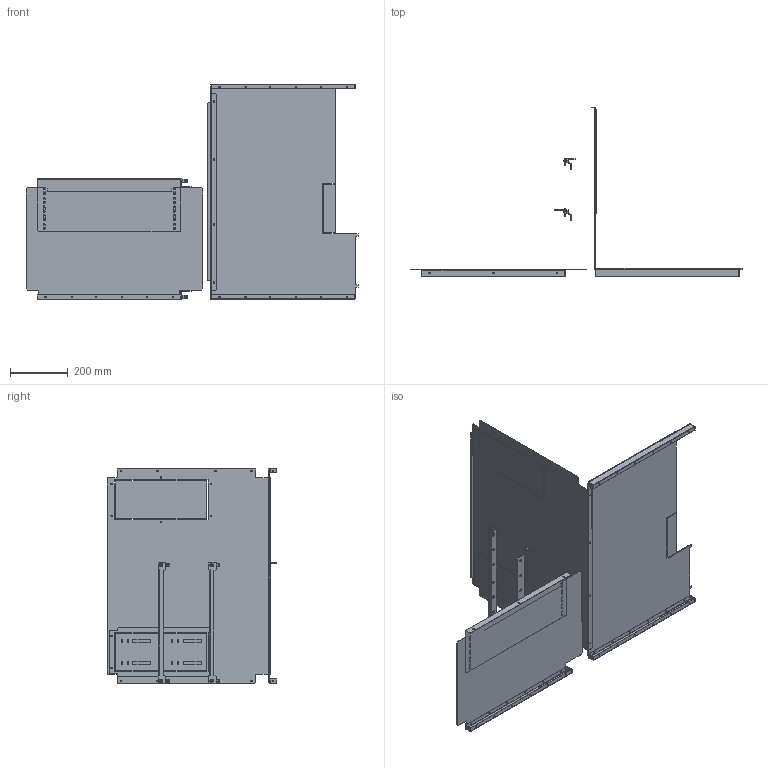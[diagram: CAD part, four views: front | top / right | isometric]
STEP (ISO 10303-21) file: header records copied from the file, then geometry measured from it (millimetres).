
FILE_DESCRIPTION(('CAx-IF Rec.Pracs.---Model Styling and Organization---1.2---2011-12-15','CAx-IF Rec.Pracs.---Geometric and Assembly Validation Properties---4.1---2014-06-16','CAx-IF Rec.Pracs.---PMI Polyline Presentation---2.0---2013-05-24'),'2;1');
FILE_NAME('R5FCMS66680 (NW08-25W).stp','2021-05-06T02:42:53+03:00',(''),(''),'STEP Interface 4.4 by CT CoreTechnologie','3D_Evolution4.4 by CT CoreTechnologie','');
FILE_SCHEMA(('AUTOMOTIVE_DESIGN { 1 0 10303 214 1 1 1 1 }'));
Length unit declared in the file: millimetre
Products named in the file (10): R5FCMS66680 (NW08-25W); RB.0776.00.00.1_-00; RB.0779.00.00.1_-03; RB.0778.00.00.1_-00; M6x16-DIN 7985 ISR_thread; RB.1168.00.00.0_-01; AC00C485; RB.0780.00.00.1_-01; RB.0697.00.00.1_-01; RB.0777.00.00.1_-03
Assembly tree (18 placements, depth 2):
  R5FCMS66680 (NW08-25W)
    RB.0776.00.00.1_-00
    RB.0779.00.00.1_-03
    RB.0778.00.00.1_-00
    M6x16-DIN 7985 ISR_thread  x4
    RB.1168.00.00.0_-01
    AC00C485  x4
    RB.0780.00.00.1_-01  x2
    RB.0697.00.00.1_-01  x3
    RB.0777.00.00.1_-03
Bounding box: 1145.9 x 585.5 x 744 mm (x, y, z)
Surface area: 2559708 mm2 (no closed solid volume)
Topology: 0 solids, 28 shells, 1062 faces, 2814 edges, 1796 vertices
Faces by surface type: plane 546, cylinder 448, bspline 68
Entity records: 21242 total; most frequent: CARTESIAN_POINT 4036, DIRECTION 3411, ORIENTED_EDGE 3408, EDGE_CURVE 1704, VECTOR 1201, LINE 1201, VERTEX_POINT 1114, AXIS2_PLACEMENT_3D 1105
